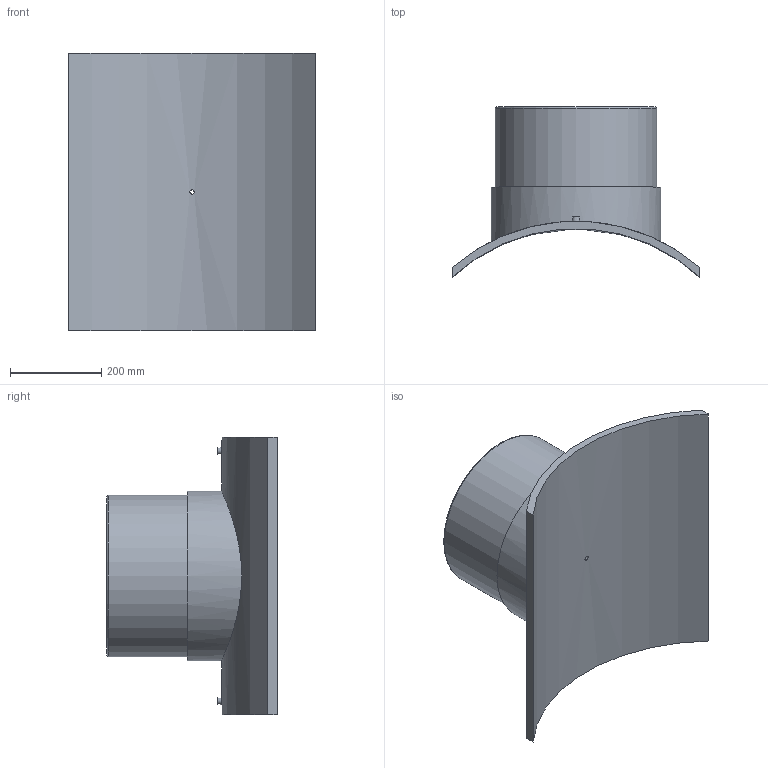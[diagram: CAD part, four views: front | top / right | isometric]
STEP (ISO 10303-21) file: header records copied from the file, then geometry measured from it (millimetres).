
FILE_DESCRIPTION(/* description */ ('PLASSON BRANCH SADDLE 800x355'),/* implementation_level */ '2;1');
FILE_NAME(/* name */ 'C:\Dropbox\KIMPROJECTS-Inventor 2019\99-16-3568-Processing\ElectroFusion Fittings\495803\stp\495803800355T.stp',/* time_stamp */ '2024-04-04T11:57:57+02:00',/* author */ ('KIM'),/* organization */ (''),/* preprocessor_version */ 'ST-DEVELOPER v17.2',/* originating_system */ 'Autodesk Inventor 2019',/* authorisation */ '');
FILE_SCHEMA (('AUTOMOTIVE_DESIGN { 1 0 10303 214 3 1 1 }'));
Length unit declared in the file: millimetre
Products named in the file (1): 495803800355T
Bounding box: 543 x 374.25 x 610 mm (x, y, z)
Volume: 16334887.5 mm3; surface area: 1323745.7 mm2
Topology: 1 solids, 1 shells, 29 faces, 60 edges, 43 vertices
Faces by surface type: plane 13, cylinder 12, torus 2, cone 2
Full cylindrical faces by diameter (mm): 4 x2, 9.6 x1, 10 x2, 16 x1, 284 x1, 355 x1, 372.75 x1
Entity records: 1102 total; most frequent: CARTESIAN_POINT 416, DIRECTION 139, ORIENTED_EDGE 120, EDGE_CURVE 60, AXIS2_PLACEMENT_3D 60, VERTEX_POINT 43, EDGE_LOOP 41, CIRCLE 30
